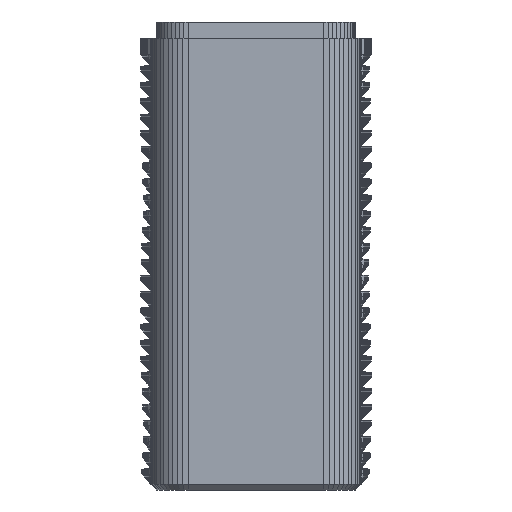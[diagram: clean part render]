
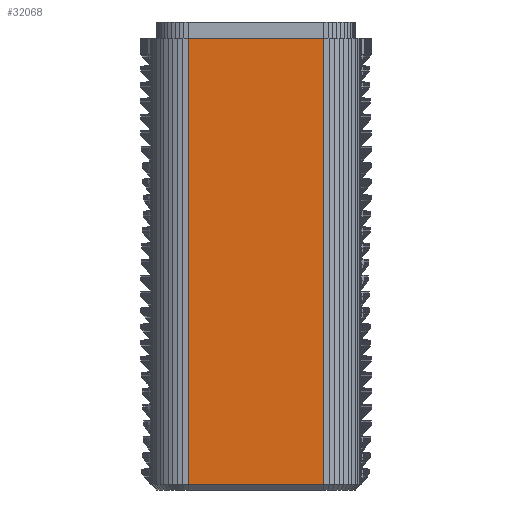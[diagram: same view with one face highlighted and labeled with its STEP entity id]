
A CAD part, left-side view. The second image highlights one B-rep face of the part: STEP entity #32068.
In plain terms, the highlighted planar face has unit normal (-1, 0, 0).
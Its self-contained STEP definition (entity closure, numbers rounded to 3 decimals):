
#2171 = PLANE('',#2172);
#2172 = AXIS2_PLACEMENT_3D('',#2173,#2174,#2175);
#2173 = CARTESIAN_POINT('',(50.,45.,200.));
#2174 = DIRECTION('',(0.,0.,1.));
#2175 = DIRECTION('',(-0.808,-0.589,0.));
#9130 = VERTEX_POINT('',#9131);
#9131 = CARTESIAN_POINT('',(-66.,29.,200.));
#9145 = PLANE('',#9146);
#9146 = AXIS2_PLACEMENT_3D('',#9147,#9148,#9149);
#9147 = CARTESIAN_POINT('',(-65.837,31.277,200.));
#9148 = DIRECTION('',(-0.997,0.071,0.));
#9149 = DIRECTION('',(-0.071,-0.997,0.));
#9157 = EDGE_CURVE('',#9130,#9158,#9160,.T.);
#9158 = VERTEX_POINT('',#9159);
#9159 = CARTESIAN_POINT('',(-66.,-29.,200.));
#9160 = SURFACE_CURVE('',#9161,(#9165,#9172),.PCURVE_S1.);
#9161 = LINE('',#9162,#9163);
#9162 = CARTESIAN_POINT('',(-66.,29.,200.));
#9163 = VECTOR('',#9164,1.);
#9164 = DIRECTION('',(0.,-1.,0.));
#9165 = PCURVE('',#2171,#9166);
#9166 = DEFINITIONAL_REPRESENTATION('',(#9167),#9171);
#9167 = LINE('',#9168,#9169);
#9168 = CARTESIAN_POINT('',(103.181,-55.368));
#9169 = VECTOR('',#9170,1.);
#9170 = DIRECTION('',(0.589,0.808));
#9171 = ( GEOMETRIC_REPRESENTATION_CONTEXT(2) 
PARAMETRIC_REPRESENTATION_CONTEXT() REPRESENTATION_CONTEXT('2D SPACE',''
  ) );
#9172 = PCURVE('',#9173,#9178);
#9173 = PLANE('',#9174);
#9174 = AXIS2_PLACEMENT_3D('',#9175,#9176,#9177);
#9175 = CARTESIAN_POINT('',(-66.,29.,200.));
#9176 = DIRECTION('',(-1.,0.,0.));
#9177 = DIRECTION('',(0.,-1.,0.));
#9178 = DEFINITIONAL_REPRESENTATION('',(#9179),#9183);
#9179 = LINE('',#9180,#9181);
#9180 = CARTESIAN_POINT('',(0.,0.));
#9181 = VECTOR('',#9182,1.);
#9182 = DIRECTION('',(1.,0.));
#9183 = ( GEOMETRIC_REPRESENTATION_CONTEXT(2) 
PARAMETRIC_REPRESENTATION_CONTEXT() REPRESENTATION_CONTEXT('2D SPACE',''
  ) );
#9201 = PLANE('',#9202);
#9202 = AXIS2_PLACEMENT_3D('',#9203,#9204,#9205);
#9203 = CARTESIAN_POINT('',(-66.,-29.,200.));
#9204 = DIRECTION('',(-0.997,-0.071,0.));
#9205 = DIRECTION('',(0.071,-0.997,0.));
#32021 = VERTEX_POINT('',#32022);
#32022 = CARTESIAN_POINT('',(-66.,29.,9.));
#32048 = EDGE_CURVE('',#32021,#9130,#32049,.T.);
#32049 = SURFACE_CURVE('',#32050,(#32054,#32061),.PCURVE_S1.);
#32050 = LINE('',#32051,#32052);
#32051 = CARTESIAN_POINT('',(-66.,29.,9.));
#32052 = VECTOR('',#32053,1.);
#32053 = DIRECTION('',(0.,0.,1.));
#32054 = PCURVE('',#9145,#32055);
#32055 = DEFINITIONAL_REPRESENTATION('',(#32056),#32060);
#32056 = LINE('',#32057,#32058);
#32057 = CARTESIAN_POINT('',(2.283,-191.));
#32058 = VECTOR('',#32059,1.);
#32059 = DIRECTION('',(0.,1.));
#32060 = ( GEOMETRIC_REPRESENTATION_CONTEXT(2) 
PARAMETRIC_REPRESENTATION_CONTEXT() REPRESENTATION_CONTEXT('2D SPACE',''
  ) );
#32061 = PCURVE('',#9173,#32062);
#32062 = DEFINITIONAL_REPRESENTATION('',(#32063),#32067);
#32063 = LINE('',#32064,#32065);
#32064 = CARTESIAN_POINT('',(0.,-191.));
#32065 = VECTOR('',#32066,1.);
#32066 = DIRECTION('',(0.,1.));
#32067 = ( GEOMETRIC_REPRESENTATION_CONTEXT(2) 
PARAMETRIC_REPRESENTATION_CONTEXT() REPRESENTATION_CONTEXT('2D SPACE',''
  ) );
#32068 = ADVANCED_FACE('',(#32069),#9173,.T.);
#32069 = FACE_BOUND('',#32070,.T.);
#32070 = EDGE_LOOP('',(#32071,#32072,#32073,#32101));
#32071 = ORIENTED_EDGE('',*,*,#9157,.F.);
#32072 = ORIENTED_EDGE('',*,*,#32048,.F.);
#32073 = ORIENTED_EDGE('',*,*,#32074,.T.);
#32074 = EDGE_CURVE('',#32021,#32075,#32077,.T.);
#32075 = VERTEX_POINT('',#32076);
#32076 = CARTESIAN_POINT('',(-66.,-29.,9.));
#32077 = SURFACE_CURVE('',#32078,(#32082,#32089),.PCURVE_S1.);
#32078 = LINE('',#32079,#32080);
#32079 = CARTESIAN_POINT('',(-66.,29.,9.));
#32080 = VECTOR('',#32081,1.);
#32081 = DIRECTION('',(0.,-1.,0.));
#32082 = PCURVE('',#9173,#32083);
#32083 = DEFINITIONAL_REPRESENTATION('',(#32084),#32088);
#32084 = LINE('',#32085,#32086);
#32085 = CARTESIAN_POINT('',(0.,-191.));
#32086 = VECTOR('',#32087,1.);
#32087 = DIRECTION('',(1.,0.));
#32088 = ( GEOMETRIC_REPRESENTATION_CONTEXT(2) 
PARAMETRIC_REPRESENTATION_CONTEXT() REPRESENTATION_CONTEXT('2D SPACE',''
  ) );
#32089 = PCURVE('',#32090,#32095);
#32090 = PLANE('',#32091);
#32091 = AXIS2_PLACEMENT_3D('',#32092,#32093,#32094);
#32092 = CARTESIAN_POINT('',(-66.,29.,9.));
#32093 = DIRECTION('',(-0.707,-0.,-0.707));
#32094 = DIRECTION('',(0.,-1.,0.));
#32095 = DEFINITIONAL_REPRESENTATION('',(#32096),#32100);
#32096 = LINE('',#32097,#32098);
#32097 = CARTESIAN_POINT('',(0.,0.));
#32098 = VECTOR('',#32099,1.);
#32099 = DIRECTION('',(1.,0.));
#32100 = ( GEOMETRIC_REPRESENTATION_CONTEXT(2) 
PARAMETRIC_REPRESENTATION_CONTEXT() REPRESENTATION_CONTEXT('2D SPACE',''
  ) );
#32101 = ORIENTED_EDGE('',*,*,#32102,.T.);
#32102 = EDGE_CURVE('',#32075,#9158,#32103,.T.);
#32103 = SURFACE_CURVE('',#32104,(#32108,#32115),.PCURVE_S1.);
#32104 = LINE('',#32105,#32106);
#32105 = CARTESIAN_POINT('',(-66.,-29.,9.));
#32106 = VECTOR('',#32107,1.);
#32107 = DIRECTION('',(0.,0.,1.));
#32108 = PCURVE('',#9173,#32109);
#32109 = DEFINITIONAL_REPRESENTATION('',(#32110),#32114);
#32110 = LINE('',#32111,#32112);
#32111 = CARTESIAN_POINT('',(58.,-191.));
#32112 = VECTOR('',#32113,1.);
#32113 = DIRECTION('',(0.,1.));
#32114 = ( GEOMETRIC_REPRESENTATION_CONTEXT(2) 
PARAMETRIC_REPRESENTATION_CONTEXT() REPRESENTATION_CONTEXT('2D SPACE',''
  ) );
#32115 = PCURVE('',#9201,#32116);
#32116 = DEFINITIONAL_REPRESENTATION('',(#32117),#32121);
#32117 = LINE('',#32118,#32119);
#32118 = CARTESIAN_POINT('',(0.,-191.));
#32119 = VECTOR('',#32120,1.);
#32120 = DIRECTION('',(0.,1.));
#32121 = ( GEOMETRIC_REPRESENTATION_CONTEXT(2) 
PARAMETRIC_REPRESENTATION_CONTEXT() REPRESENTATION_CONTEXT('2D SPACE',''
  ) );
